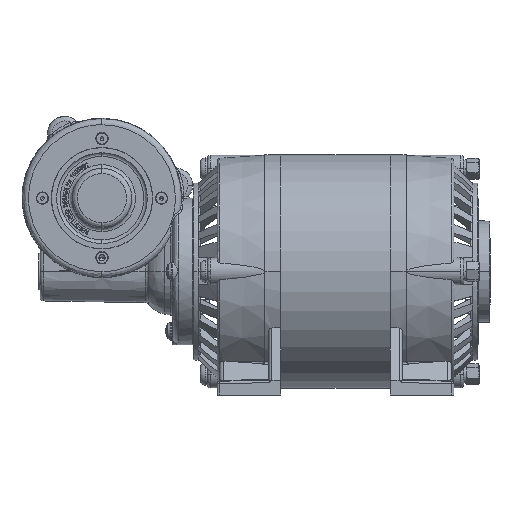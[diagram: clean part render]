
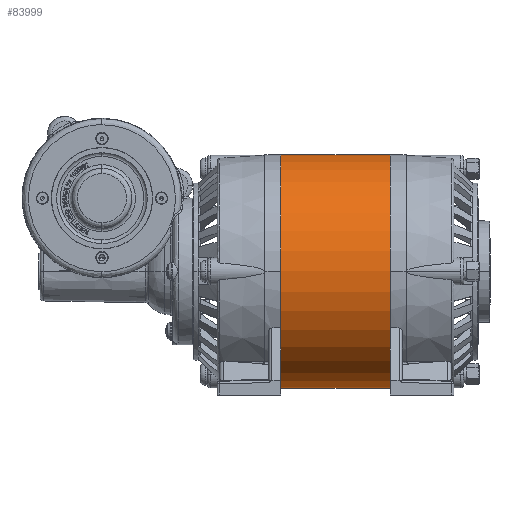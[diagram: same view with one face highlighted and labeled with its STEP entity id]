
A CAD part, top view. The second image highlights one B-rep face of the part: STEP entity #83999.
In plain terms, the highlighted cylindrical face has radius 40.5 mm (diameter 81 mm), a partial arc.
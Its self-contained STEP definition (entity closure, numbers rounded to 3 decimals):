
#515 = EDGE_CURVE ( 'NONE', #49367, #167479, #188530, .T. ) ;
#921 = CARTESIAN_POINT ( 'NONE',  ( -50.005, 92.659, 155.685 ) ) ;
#14082 = ORIENTED_EDGE ( 'NONE', *, *, #133332, .F. ) ;
#19545 = DIRECTION ( 'NONE',  ( 1., 0., 0. ) ) ;
#24586 = EDGE_CURVE ( 'NONE', #49367, #160598, #72898, .T. ) ;
#29901 = AXIS2_PLACEMENT_3D ( 'NONE', #124891, #192138, #205413 ) ;
#31900 = EDGE_LOOP ( 'NONE', ( #206482, #57339, #14082, #176779 ) ) ;
#49367 = VERTEX_POINT ( 'NONE', #161280 ) ;
#57339 = ORIENTED_EDGE ( 'NONE', *, *, #69212, .T. ) ;
#65408 = CARTESIAN_POINT ( 'NONE',  ( -12.005, 52.159, 155.685 ) ) ;
#69212 = EDGE_CURVE ( 'NONE', #167479, #190620, #212464, .T. ) ;
#70173 = DIRECTION ( 'NONE',  ( 0., 1., 0. ) ) ;
#72898 = LINE ( 'NONE', #176255, #168495 ) ;
#83999 = ADVANCED_FACE ( 'NONE', ( #163296 ), #129117, .T. ) ;
#90704 = CARTESIAN_POINT ( 'NONE',  ( -12.005, 133.159, 155.685 ) ) ;
#109350 = DIRECTION ( 'NONE',  ( 1., 0., 0. ) ) ;
#111568 = CARTESIAN_POINT ( 'NONE',  ( -50.005, 52.159, 155.685 ) ) ;
#124609 = CIRCLE ( 'NONE', #29901, 40.5 ) ;
#124891 = CARTESIAN_POINT ( 'NONE',  ( -12.005, 92.659, 155.685 ) ) ;
#126957 = CARTESIAN_POINT ( 'NONE',  ( -50.005, 92.659, 155.685 ) ) ;
#129117 = CYLINDRICAL_SURFACE ( 'NONE', #131585, 40.5 ) ;
#131585 = AXIS2_PLACEMENT_3D ( 'NONE', #126957, #109350, #209608 ) ;
#133332 = EDGE_CURVE ( 'NONE', #160598, #190620, #124609, .T. ) ;
#142714 = AXIS2_PLACEMENT_3D ( 'NONE', #921, #19545, #70173 ) ;
#160598 = VERTEX_POINT ( 'NONE', #90704 ) ;
#161280 = CARTESIAN_POINT ( 'NONE',  ( -50.005, 133.159, 155.685 ) ) ;
#162902 = DIRECTION ( 'NONE',  ( 1., 0., 0. ) ) ;
#163185 = VECTOR ( 'NONE', #162902, 1000. ) ;
#163296 = FACE_OUTER_BOUND ( 'NONE', #31900, .T. ) ;
#167479 = VERTEX_POINT ( 'NONE', #111568 ) ;
#168495 = VECTOR ( 'NONE', #199327, 1000. ) ;
#176149 = CARTESIAN_POINT ( 'NONE',  ( -50.005, 52.159, 155.685 ) ) ;
#176255 = CARTESIAN_POINT ( 'NONE',  ( -50.005, 133.159, 155.685 ) ) ;
#176779 = ORIENTED_EDGE ( 'NONE', *, *, #24586, .F. ) ;
#188530 = CIRCLE ( 'NONE', #142714, 40.5 ) ;
#190620 = VERTEX_POINT ( 'NONE', #65408 ) ;
#192138 = DIRECTION ( 'NONE',  ( 1., 0., 0. ) ) ;
#199327 = DIRECTION ( 'NONE',  ( 1., 0., 0. ) ) ;
#205413 = DIRECTION ( 'NONE',  ( 0., 1., 0. ) ) ;
#206482 = ORIENTED_EDGE ( 'NONE', *, *, #515, .T. ) ;
#209608 = DIRECTION ( 'NONE',  ( 0., 1., 0. ) ) ;
#212464 = LINE ( 'NONE', #176149, #163185 ) ;
